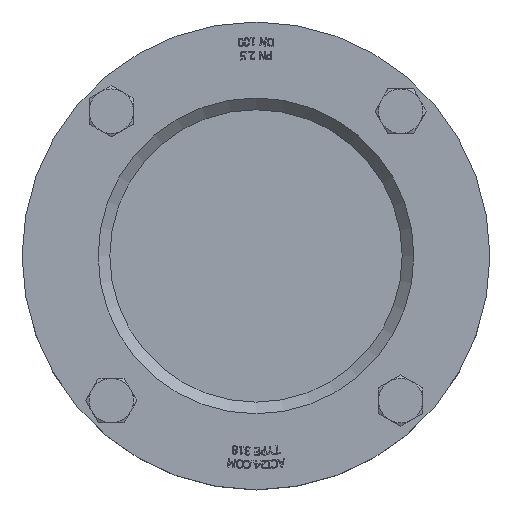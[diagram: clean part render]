
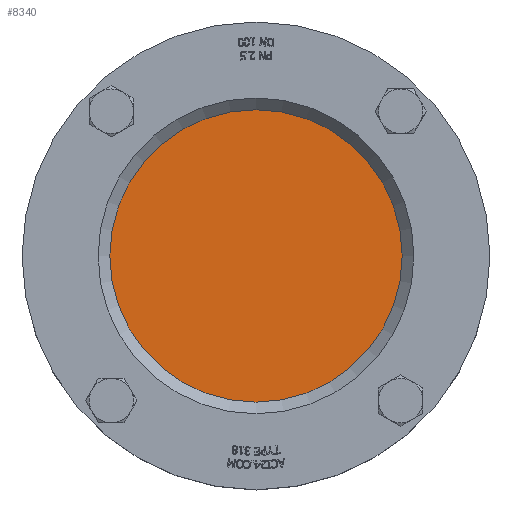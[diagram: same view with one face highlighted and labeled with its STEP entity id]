
A CAD part, top view. The second image highlights one B-rep face of the part: STEP entity #8340.
In plain terms, the highlighted planar face has unit normal (0, 0, 1).
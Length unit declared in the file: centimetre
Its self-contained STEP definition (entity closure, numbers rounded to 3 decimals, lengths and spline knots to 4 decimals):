
#2666=FACE_OUTER_BOUND('',#3126,.T.);
#3126=EDGE_LOOP('',(#5680));
#3641=CIRCLE('',#8803,6.25);
#3681=VERTEX_POINT('',#10574);
#4479=EDGE_CURVE('',#3681,#3681,#3641,.T.);
#5680=ORIENTED_EDGE('',*,*,#4479,.F.);
#8082=PLANE('',#8802);
#8340=ADVANCED_FACE('',(#2666),#8082,.F.);
#8802=AXIS2_PLACEMENT_3D('',#10573,#9135,#9136);
#8803=AXIS2_PLACEMENT_3D('',#10575,#9137,#9138);
#9135=DIRECTION('center_axis',(0.,0.,
-1.));
#9136=DIRECTION('ref_axis',(-1.,0.,0.));
#9137=DIRECTION('center_axis',(0.,0.,
-1.));
#9138=DIRECTION('ref_axis',(1.,0.,0.));
#10573=CARTESIAN_POINT('Origin',(3.6266,0.0625,-12.3311));
#10574=CARTESIAN_POINT('',(-2.6234,0.0625,-12.3311));
#10575=CARTESIAN_POINT('Origin',(3.6266,0.0625,-12.3311));
